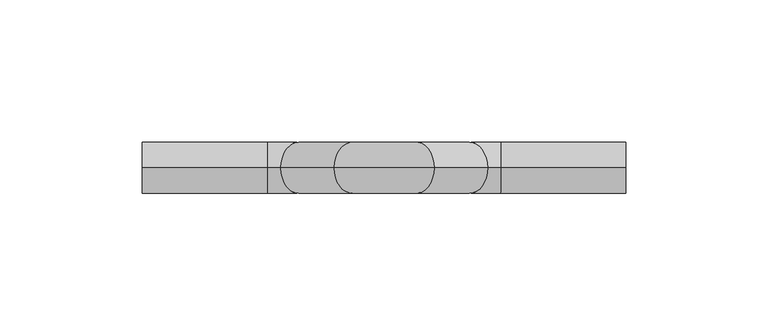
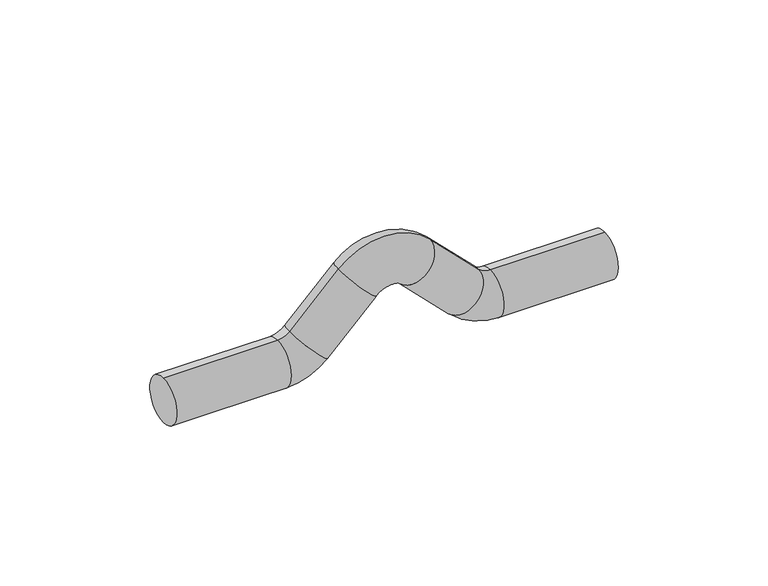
"""IFC4 building model written with IfcOpenShell, lengths in millimetres: pipe fitting geometry, РЕХАУ_Пресс Обвод : Обвод 18."""

from ifc_helpers import new_model, si_unit, point, frame, origin, place, context, project, spatial, circle_curve, ellipse_curve, trimmed, source, transform, mapped, element, save
from ifc_brep_helpers import plane_surface, cylinder_surface, revolved_surface, advanced_brep


def pipe_fitting_09a4cd9c(model_context):
    return source(origin(), model_context, "Body", "AdvancedBrep", [
        advanced_brep(
        [(0.0, 0.0, -9.0), (0.0, 0.0, 9.0), (44.0, 0.0, -9.0), (44.0, 0.0, 9.0), (48.5961941, 0.0, 10.9038059), (61.3241161, 0.0, -1.8241161), (80.131728, 0.0, 16.9834957), (67.4038059, 0.0, 29.7114178), (102.5961941, 0.0, 29.7114178), (89.868272, 0.0, 16.9834957), (108.6758839, 0.0, -1.8241161), (121.4038059, 0.0, 10.9038059), (126.0, 0.0, 9.0), (126.0, 0.0, -9.0), (170.0, 0.0, -9.0), (170.0, 0.0, 9.0)],
        [
            (0, 1, circle_curve(frame((0.0, 0.0, 0.0), z_axis=(-1.0, 0.0, 0.0), x_axis=(0.0, 0.0, 1.0)), 9.0)),
            (1, 0, circle_curve(frame((0.0, 0.0, 0.0), z_axis=(-1.0, 0.0, 0.0), x_axis=(0.0, 0.0, 1.0)), 9.0)),
            (0, 2),
            (2, 3, circle_curve(frame((44.0, 0.0, 0.0), z_axis=(-1.0, 0.0, 0.0), x_axis=(0.0, 0.0, 1.0)), 9.0)),
            (3, 1),
            (3, 2, circle_curve(frame((44.0, 0.0, 0.0), z_axis=(-1.0, 0.0, 0.0), x_axis=(0.0, 0.0, 1.0)), 9.0)),
            (4, 3, circle_curve(frame((44.0, 0.0, 15.5), z_axis=(0.0, 1.0, 0.0), x_axis=(0.0, 0.0, -1.0)), 6.5)),
            (2, 5, circle_curve(frame((44.0, 0.0, 15.5), z_axis=(0.0, -1.0, 0.0), x_axis=(0.0, 0.0, -1.0)), 24.5)),
            (5, 4, circle_curve(frame((54.9601551, 0.0, 4.5398449), z_axis=(-0.7071067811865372, 0.0, -0.7071067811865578), x_axis=(-0.7071067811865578, 0.0, 0.7071067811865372)), 9.0)),
            (4, 5, circle_curve(frame((54.9601551, 0.0, 4.5398449), z_axis=(-0.7071067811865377, 0.0, -0.7071067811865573), x_axis=(-0.7071067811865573, 0.0, 0.7071067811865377)), 9.0)),
            (5, 6),
            (6, 7, circle_curve(frame((73.767767, 0.0, 23.3474567), z_axis=(-0.7071067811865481, 0.0, -0.707106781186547), x_axis=(-0.7071067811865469, 0.0, 0.707106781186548)), 9.0)),
            (7, 4),
            (7, 6, circle_curve(frame((73.767767, 0.0, 23.3474567), z_axis=(-0.7071067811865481, 0.0, -0.707106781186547), x_axis=(-0.7071067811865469, 0.0, 0.707106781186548)), 9.0)),
            (8, 7, circle_curve(frame((85.0, 0.0, 12.1152237), z_axis=(0.0, -1.0, 0.0), x_axis=(-0.7071067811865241, 0.0, 0.707106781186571)), 24.8847763)),
            (6, 9, circle_curve(frame((85.0, 0.0, 12.1152237), z_axis=(0.0, 1.0, 0.0), x_axis=(-0.7071067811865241, 0.0, 0.707106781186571)), 6.8847763)),
            (9, 8, circle_curve(frame((96.232233, 0.0, 23.3474567), z_axis=(-0.7071067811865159, 0.0, 0.7071067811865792), x_axis=(0.7071067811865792, 0.0, 0.7071067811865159)), 9.0)),
            (8, 9, circle_curve(frame((96.232233, 0.0, 23.3474567), z_axis=(-0.7071067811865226, 0.0, 0.7071067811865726), x_axis=(0.7071067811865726, 0.0, 0.7071067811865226)), 9.0)),
            (9, 10),
            (10, 11, circle_curve(frame((115.0398449, 0.0, 4.5398449), z_axis=(-0.707106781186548, 0.0, 0.707106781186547), x_axis=(0.707106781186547, 0.0, 0.707106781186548)), 9.0)),
            (11, 8),
            (11, 10, circle_curve(frame((115.0398449, 0.0, 4.5398449), z_axis=(-0.707106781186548, 0.0, 0.707106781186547), x_axis=(0.707106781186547, 0.0, 0.707106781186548)), 9.0)),
            (12, 11, circle_curve(frame((126.0, 0.0, 15.5), z_axis=(0.0, 1.0, 0.0), x_axis=(-0.7071067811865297, 0.0, -0.7071067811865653)), 6.5)),
            (10, 13, circle_curve(frame((126.0, 0.0, 15.5), z_axis=(0.0, -1.0, 0.0), x_axis=(-0.7071067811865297, 0.0, -0.7071067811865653)), 24.5)),
            (13, 12, circle_curve(frame((126.0, 0.0, 0.0), z_axis=(-1.0, 0.0, 0.0), x_axis=(0.0, 0.0, 1.0)), 9.0)),
            (12, 13, circle_curve(frame((126.0, 0.0, 0.0), z_axis=(-1.0, 0.0, 0.0), x_axis=(0.0, 0.0, 1.0)), 9.0)),
            (14, 15, circle_curve(frame((170.0, 0.0, 0.0), z_axis=(1.0, 0.0, 0.0), x_axis=(0.0, 0.0, 1.0)), 9.0)),
            (15, 14, circle_curve(frame((170.0, 0.0, 0.0), z_axis=(1.0, 0.0, 0.0), x_axis=(0.0, 0.0, 1.0)), 9.0)),
            (13, 14),
            (15, 12),
        ],
        [
            plane_surface(frame((0.0, 0.0, 0.0), z_axis=(-1.0, 0.0, 0.0), x_axis=(0.0, -1.0, 0.0))),
            cylinder_surface(frame((0.0, 0.0, 0.0), z_axis=(-1.0, 0.0, 0.0), x_axis=(0.0, 0.0, 1.0)), 9.0),
            revolved_surface(trimmed(ellipse_curve(frame((44.0, 0.0, 0.0), z_axis=(-1.0, 0.0, 0.0), x_axis=(0.0, 0.0, 1.0)), 9.0, 9.0), [point((44.0, 0.0, -9.0))], [point((44.0, 0.0, 9.0))], True, "CARTESIAN"), (44.0, 0.0, 15.5), (0.0, -1.0, 0.0)),
            revolved_surface(trimmed(ellipse_curve(frame((44.0, 0.0, 0.0), z_axis=(-1.0, 0.0, 0.0), x_axis=(0.0, 0.0, 1.0)), 9.0, 9.0), [point((44.0, 0.0, 9.0))], [point((44.0, 0.0, -9.0))], True, "CARTESIAN"), (44.0, 0.0, 15.5), (0.0, -1.0, 0.0)),
            cylinder_surface(frame((54.9601551, 0.0, 4.5398449), z_axis=(-0.707106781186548, 0.0, -0.7071067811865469), x_axis=(-0.7071067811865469, 0.0, 0.707106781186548)), 9.0),
            revolved_surface(trimmed(ellipse_curve(frame((73.767767, 0.0, 23.3474567), z_axis=(-0.7071067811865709, 0.0, -0.7071067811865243), x_axis=(-0.7071067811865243, 0.0, 0.7071067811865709)), 9.0, 9.0), [point((80.131728, 0.0, 16.9834957))], [point((67.4038059, 0.0, 29.7114178))], True, "CARTESIAN"), (85.0, 0.0, 12.1152237), (0.0, 1.0, 0.0)),
            revolved_surface(trimmed(ellipse_curve(frame((73.767767, 0.0, 23.3474567), z_axis=(-0.7071067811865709, 0.0, -0.7071067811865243), x_axis=(-0.7071067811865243, 0.0, 0.7071067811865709)), 9.0, 9.0), [point((67.4038059, 0.0, 29.7114178))], [point((80.131728, 0.0, 16.9834957))], True, "CARTESIAN"), (85.0, 0.0, 12.1152237), (0.0, 1.0, 0.0)),
            cylinder_surface(frame((96.232233, 0.0, 23.3474567), z_axis=(-0.707106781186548, 0.0, 0.707106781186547), x_axis=(0.707106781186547, 0.0, 0.707106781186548)), 9.0),
            revolved_surface(trimmed(ellipse_curve(frame((115.0398449, 0.0, 4.5398449), z_axis=(-0.7071067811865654, 0.0, 0.7071067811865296), x_axis=(0.7071067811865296, 0.0, 0.7071067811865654)), 9.0, 9.0), [point((108.6758839, 0.0, -1.8241161))], [point((121.4038059, 0.0, 10.9038059))], True, "CARTESIAN"), (126.0, 0.0, 15.5), (0.0, -1.0, 0.0)),
            revolved_surface(trimmed(ellipse_curve(frame((115.0398449, 0.0, 4.5398449), z_axis=(-0.7071067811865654, 0.0, 0.7071067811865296), x_axis=(0.7071067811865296, 0.0, 0.7071067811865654)), 9.0, 9.0), [point((121.4038059, 0.0, 10.9038059))], [point((108.6758839, 0.0, -1.8241161))], True, "CARTESIAN"), (126.0, 0.0, 15.5), (0.0, -1.0, 0.0)),
            plane_surface(frame((170.0, 0.0, 0.0), z_axis=(1.0, 0.0, 0.0), x_axis=(0.0, -1.0, 0.0))),
            cylinder_surface(frame((126.0, 0.0, 0.0), z_axis=(-1.0, 0.0, 0.0), x_axis=(0.0, 0.0, 1.0)), 9.0),
        ],
        [
            (0, [[1, 2]]),
            (1, [[-1, 3, 4, 5]]),
            (1, [[-2, -5, 6, -3]]),
            (2, [[7, -4, 8, 9]]),
            (3, [[-8, -6, -7, 10]]),
            (4, [[-9, 11, 12, 13]]),
            (4, [[-10, -13, 14, -11]]),
            (5, [[15, -12, 16, 17]]),
            (6, [[-16, -14, -15, 18]]),
            (7, [[-17, 19, 20, 21]]),
            (7, [[-18, -21, 22, -19]]),
            (8, [[23, -20, 24, 25]]),
            (9, [[-24, -22, -23, 26]]),
            (10, [[27, 28]]),
            (11, [[-25, 29, -28, 30]]),
            (11, [[-26, -30, -27, -29]]),
        ],
    ),
    ])


if __name__ == "__main__":
    model = new_model("IFC4")
    model_context = context("Model", 3, world=origin())
    ifc_project = project(units=[si_unit("LENGTHUNIT", "METRE", prefix="MILLI")], contexts=[model_context])
    site = spatial("IfcSite", under=ifc_project)
    building = spatial("IfcBuilding", under=site)
    placement = place(None, origin())
    pipe_fitting_shape = pipe_fitting_09a4cd9c(model_context)
    element("IfcPipeFitting", 1, ObjectType="РЕХАУ_Пресс Обвод : Обвод 18", at=placement, inside=building, context=model_context, shape_type="MappedRepresentation", body=[
        mapped(pipe_fitting_shape, transform((0.0, 0.0, 0.0), x_axis=(1.0, 0.0, 0.0), y_axis=(0.0, 1.0, 0.0), z_axis=(0.0, 0.0, 1.0))),
    ])
    save(model, "model.ifc")
